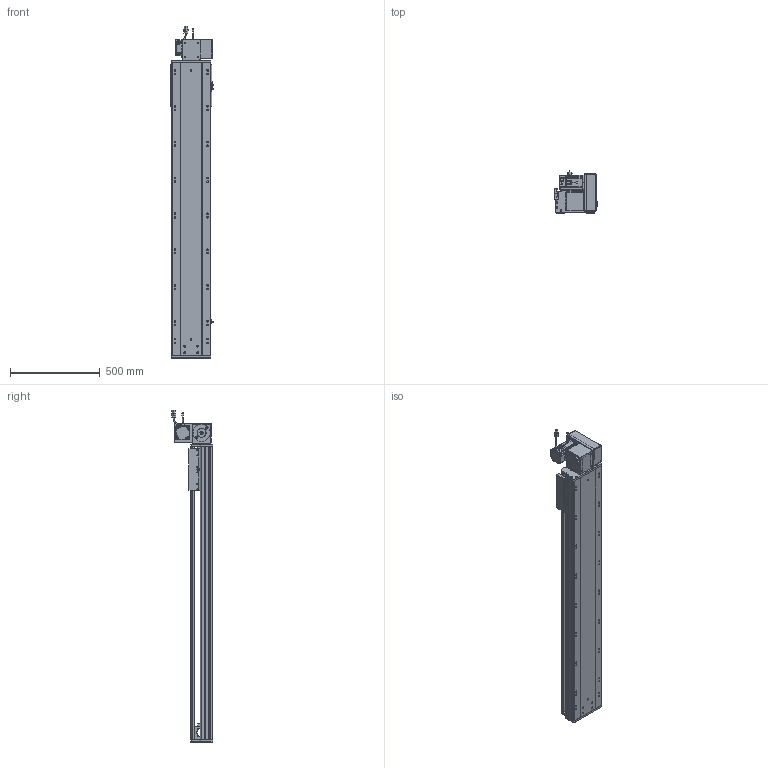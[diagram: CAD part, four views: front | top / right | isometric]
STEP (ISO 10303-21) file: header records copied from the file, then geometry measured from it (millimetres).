
FILE_DESCRIPTION (( 'STEP AP203' ), '1' );
FILE_NAME ('RY220-T-300-UR.SLDASM_1300.step', '2022-07-25T08:43:44', ( '' ), ( '' ), 'SwSTEP 2.0', 'SolidWorks 2016', '' );
FILE_SCHEMA (( 'CONFIG_CONTROL_DESIGN' ));
Length unit declared in the file: millimetre
Products named in the file (14): RY220-俋离672覜茼んえ; RY220-T-300-奻裔啣_1300; 怢湛750W_ECMA-CX0807ES; RY220圉猾敕々湍臏賑輸; 110A-T-肮祭謫釱傷裔; RY220-T-湍謫欶(鍼踢); RY220翋肮祭謫裔啣; RY220-T-300-UR.SLDASM_1300; RY220-T-蛌殏萇儂假蚾啣(750W); 覜茼ん672; 滅袉蝶18-15; RY220-同步轮副支撑座6304×2; RY220翋肮祭謫釱; RY220-T菁釱-300_1300
Assembly tree (18 placements, depth 2):
  RY220-T-300-UR.SLDASM_1300
    RY220-T菁釱-300_1300
    RY220翋肮祭謫釱
    覜茼ん672  x3
    RY220圉猾敕々湍臏賑輸
    RY220-T-300-奻裔啣_1300
    RY220-俋离672覜茼んえ
    滅袉蝶18-15  x3
    RY220翋肮祭謫裔啣  x2
    110A-T-肮祭謫釱傷裔
    怢湛750W_ECMA-CX0807ES
    RY220-T-湍謫欶(鍼踢)
    RY220-T-蛌殏萇儂假蚾啣(750W)
    RY220-同步轮副支撑座6304×2
Bounding box: 238.7 x 231.74 x 1853.27 mm (x, y, z)
Volume: 14199990.4 mm3; surface area: 4213587.1 mm2
Topology: 19 solids, 19 shells, 2692 faces, 7431 edges, 4704 vertices
Faces by surface type: cylinder 1272, plane 1069, cone 269, bspline 56, sphere 16, torus 10
Entity records: 89603 total; most frequent: CARTESIAN_POINT 25515, ORIENTED_EDGE 13306, DIRECTION 12620, EDGE_CURVE 6653, AXIS2_PLACEMENT_3D 4478, VERTEX_POINT 4328, VECTOR 3664, LINE 3664
